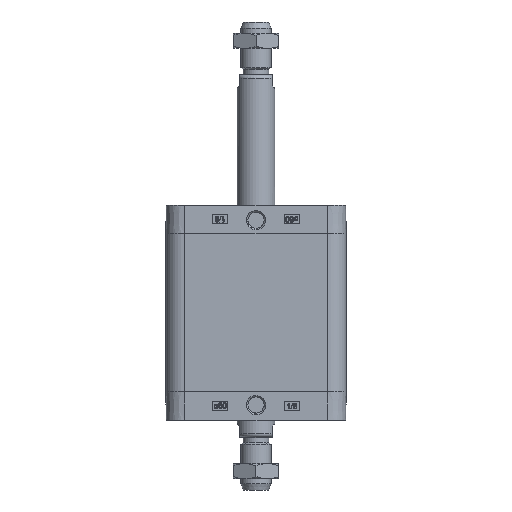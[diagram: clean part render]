
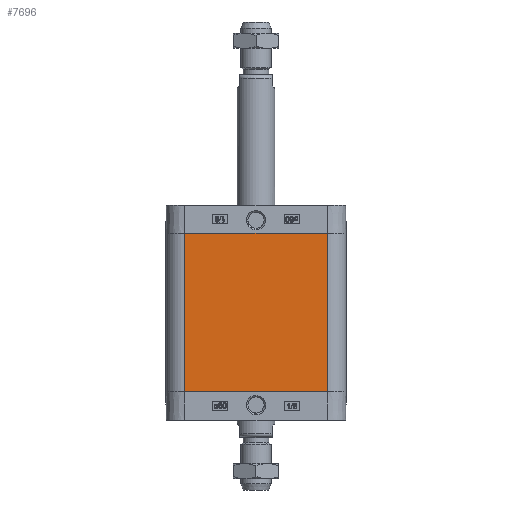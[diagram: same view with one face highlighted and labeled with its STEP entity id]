
A CAD part, left-side view. The second image highlights one B-rep face of the part: STEP entity #7696.
In plain terms, the highlighted planar face has unit normal (-1, 0, 0).
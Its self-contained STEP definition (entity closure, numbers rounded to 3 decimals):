
#806=ORIENTED_EDGE('',*,*,#3098,.T.);
#807=ORIENTED_EDGE('',*,*,#3097,.F.);
#808=ORIENTED_EDGE('',*,*,#3099,.F.);
#809=ORIENTED_EDGE('',*,*,#3100,.T.);
#3097=EDGE_CURVE('',#4243,#4240,#5032,.T.);
#3098=EDGE_CURVE('',#4244,#4240,#5033,.T.);
#3099=EDGE_CURVE('',#4245,#4243,#5034,.T.);
#3100=EDGE_CURVE('',#4245,#4244,#5035,.T.);
#4240=VERTEX_POINT('',#13350);
#4243=VERTEX_POINT('',#13355);
#4244=VERTEX_POINT('',#13359);
#4245=VERTEX_POINT('',#13361);
#5032=LINE('',#13356,#5685);
#5033=LINE('',#13358,#5686);
#5034=LINE('',#13360,#5687);
#5035=LINE('',#13362,#5688);
#5685=VECTOR('',#11216,1000.);
#5686=VECTOR('',#11219,1000.);
#5687=VECTOR('',#11220,1000.);
#5688=VECTOR('',#11221,1000.);
#6335=EDGE_LOOP('',(#806,#807,#808,#809));
#6910=FACE_BOUND('',#6335,.T.);
#7484=PLANE('',#10464);
#7696=ADVANCED_FACE('',(#6910),#7484,.T.);
#10464=AXIS2_PLACEMENT_3D('',#13357,#11217,#11218);
#11216=DIRECTION('',(0.,0.,1.));
#11217=DIRECTION('',(-1.,0.,0.));
#11218=DIRECTION('',(0.,0.,1.));
#11219=DIRECTION('',(0.,1.,0.));
#11220=DIRECTION('',(0.,1.,0.));
#11221=DIRECTION('',(0.,0.,1.));
#13350=CARTESIAN_POINT('',(-47.75,37.75,29.));
#13355=CARTESIAN_POINT('',(-47.75,37.75,-55.));
#13356=CARTESIAN_POINT('',(-47.75,37.75,0.));
#13357=CARTESIAN_POINT('',(-47.75,-37.75,0.));
#13358=CARTESIAN_POINT('',(-47.75,-37.75,29.));
#13359=CARTESIAN_POINT('',(-47.75,-37.75,29.));
#13360=CARTESIAN_POINT('',(-47.75,-37.75,-55.));
#13361=CARTESIAN_POINT('',(-47.75,-37.75,-55.));
#13362=CARTESIAN_POINT('',(-47.75,-37.75,0.));
